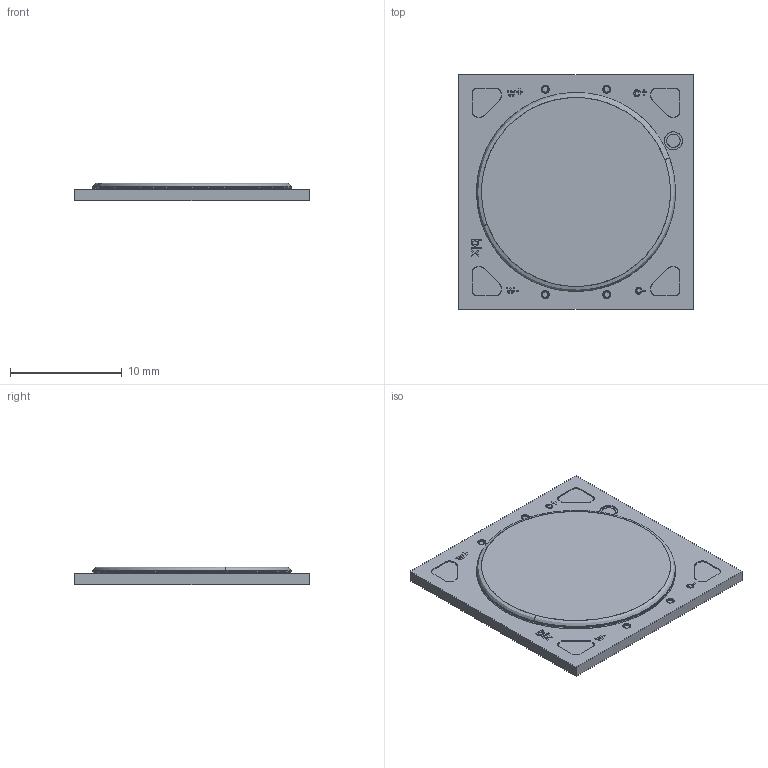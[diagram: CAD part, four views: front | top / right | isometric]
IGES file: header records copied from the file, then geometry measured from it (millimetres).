
Start section: SolidWorks IGES file using analytic representation for surfaces
Global section: file name: D:\Users\5160206\Desktop\3D document\NTW GEN3\NTW15-G3\NTW15-GEN3 Assembly.IGS; native system: SolidWorks 2018; preprocessor: SolidWorks 2018; author: 5160206; date: 250109.095151; units: millimetre
Bounding box: 21 x 21 x 1.6 mm (x, y, z)
Surface area: 995 mm2 (no closed solid volume)
Topology: 0 solids, 0 shells, 195 faces, 1584 edges, 1584 vertices
Faces by surface type: bspline 152, revolution 43
